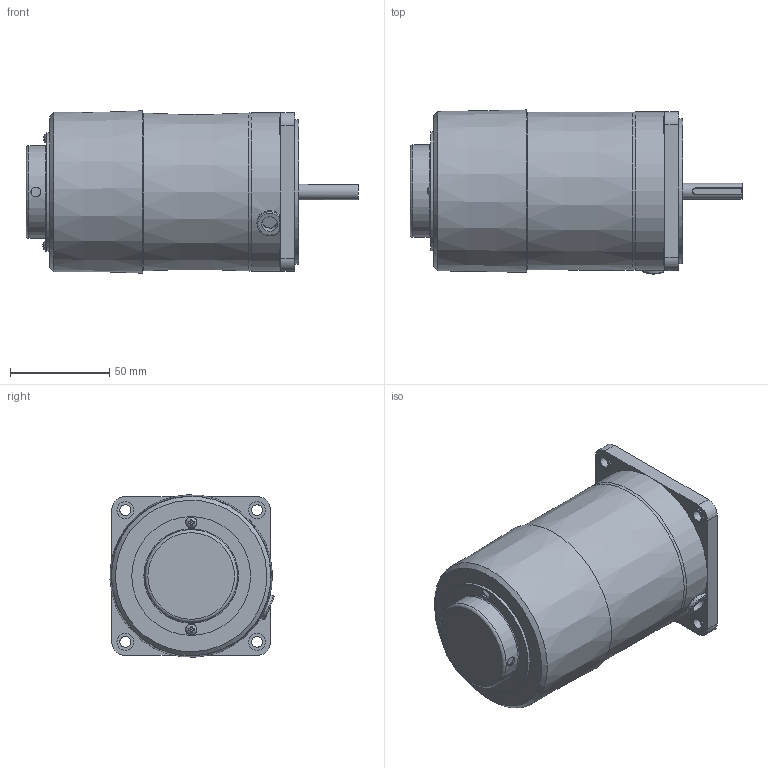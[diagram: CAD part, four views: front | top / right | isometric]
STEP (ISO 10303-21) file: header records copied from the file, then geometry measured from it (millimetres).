
FILE_DESCRIPTION((''),'2;1');
FILE_NAME('D:\김성묵\업무폴더\개발 파일\프로젝트 개발 AB등급\AC표준형 개발자료\90각 이하 표준형 개발\도면작성 자료\3D 도면\홈페이지용 3D 파일\25W MOTOR\ES TYPE\S8R15(25)K-ES.stp','2015-03-30T20:21:20',('smkim'),(''),'Autodesk Inventor 2012','Autodesk Inventor 2012','');
FILE_SCHEMA(('AUTOMOTIVE_DESIGN { 1 0 10303 214 1 1 1 1 }'));
Length unit declared in the file: millimetre
Products named in the file (1): 부품111
Bounding box: 167.5 x 82.75 x 81.92 mm (x, y, z)
Volume: 652588.3 mm3; surface area: 51093.4 mm2
Topology: 1 solids, 6 shells, 152 faces, 350 edges, 228 vertices
Faces by surface type: plane 92, cylinder 44, torus 8, bspline 5, cone 3
Full cylindrical faces by diameter (mm): 3 x2, 3.5 x2, 5 x1, 5.5 x4, 5.6 x2, 8 x2, 8.5 x4, 34 x1, 44.7 x1, 46.7 x1, 47.7 x1, 59.9 x1, 73 x1, 78 x1, 80 x1
Entity records: 4667 total; most frequent: CARTESIAN_POINT 1326, DIRECTION 660, ORIENTED_EDGE 608, EDGE_CURVE 304, AXIS2_PLACEMENT_3D 249, EDGE_LOOP 221, VERTEX_POINT 219, VECTOR 162
